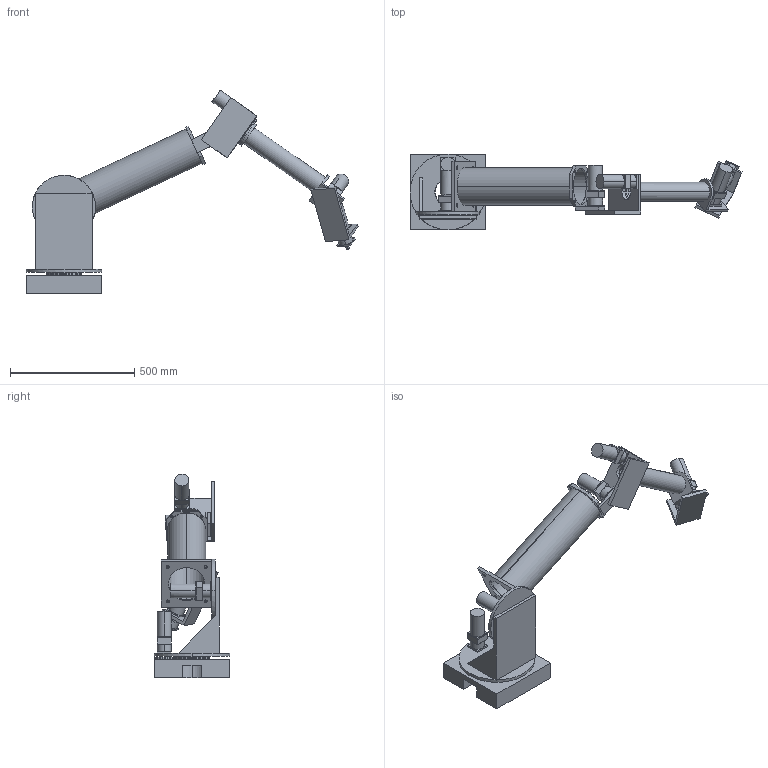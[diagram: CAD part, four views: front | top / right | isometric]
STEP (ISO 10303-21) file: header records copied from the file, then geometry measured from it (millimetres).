
FILE_DESCRIPTION (( 'STEP AP214' ), '1' );
FILE_NAME ('sn.STEP', '2005-06-28T23:26:26', ( 'Kess Construction' ), ( '' ), 'SwSTEP 2.0', 'SolidWorks 2004231', '' );
FILE_SCHEMA (( 'AUTOMOTIVE_DESIGN' ));
Length unit declared in the file: inch
Products named in the file (1): sn
Bounding box: 1334.44 x 304.87 x 818.19 mm (x, y, z)
Volume: 13343015.6 mm3; surface area: 2086665.9 mm2
Topology: 30 solids, 30 shells, 482 faces, 1153 edges, 738 vertices
Faces by surface type: plane 271, cylinder 211
Entity records: 14667 total; most frequent: DIRECTION 2611, CARTESIAN_POINT 2374, ORIENTED_EDGE 2306, EDGE_CURVE 1153, AXIS2_PLACEMENT_3D 975, VERTEX_POINT 738, VECTOR 661, LINE 661
